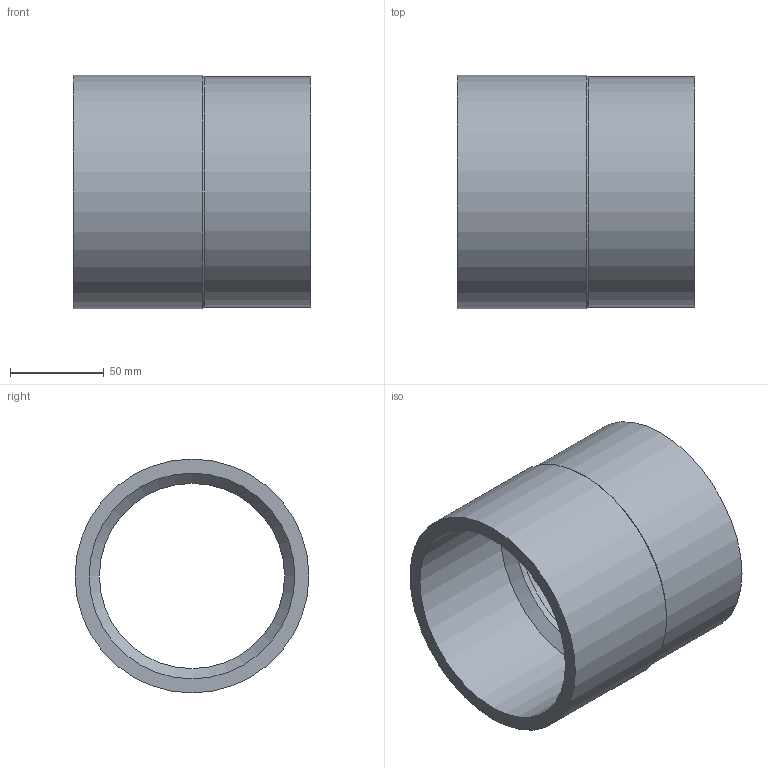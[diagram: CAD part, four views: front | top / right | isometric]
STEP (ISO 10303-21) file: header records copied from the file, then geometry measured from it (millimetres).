
FILE_DESCRIPTION(/* description */ ('PLASSON REDUCING SOCKET M.F.125(110)110 CEMENTED'),/* implementation_level */ '2;1');
FILE_NAME(/* name */ 'C:\Dropbox\KIMPROJECTS-Inventor\99-16-3568-Processing\PVC Catalog 2017\050200\050200125110.ipt.stp',/* time_stamp */ '2017-12-07T15:52:59+02:00',/* author */ ('KIM'),/* organization */ (''),/* preprocessor_version */ 'ST-DEVELOPER v15.6',/* originating_system */ 'Autodesk Inventor 2015',/* authorisation */ '');
FILE_SCHEMA (('AUTOMOTIVE_DESIGN { 1 0 10303 214 3 1 1 }'));
Length unit declared in the file: millimetre
Products named in the file (1): 050200125110
Bounding box: 127 x 125 x 125 mm (x, y, z)
Volume: 340575.3 mm3; surface area: 101046 mm2
Topology: 1 solids, 1 shells, 10 faces, 17 edges, 10 vertices
Faces by surface type: cylinder 5, plane 3, cone 2
Full cylindrical faces by diameter (mm): 99 x1, 110 x2, 123 x1, 125 x1
Entity records: 232 total; most frequent: DIRECTION 42, CARTESIAN_POINT 31, AXIS2_PLACEMENT_3D 21, EDGE_LOOP 20, ORIENTED_EDGE 20, FACE_BOUND 10, FACE_OUTER_BOUND 10, CIRCLE 10
